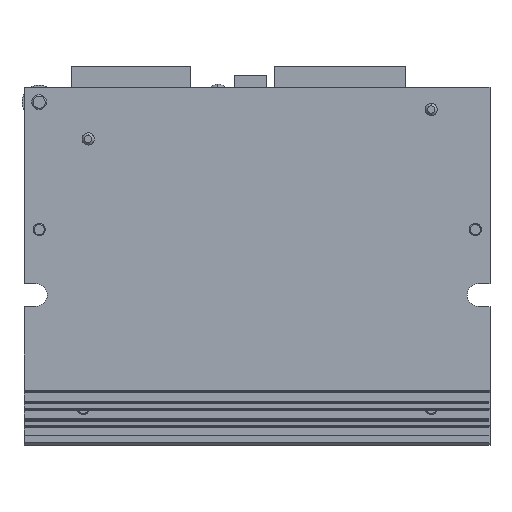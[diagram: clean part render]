
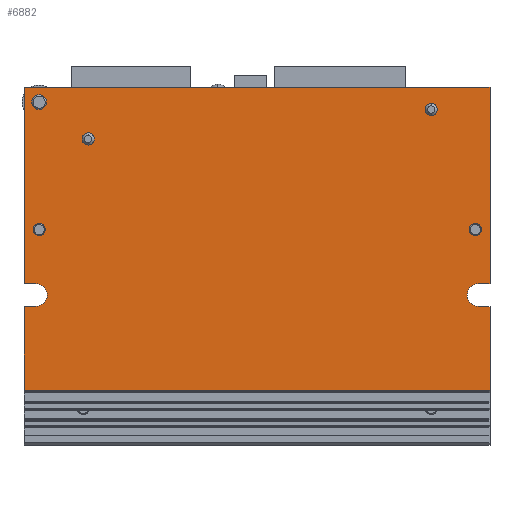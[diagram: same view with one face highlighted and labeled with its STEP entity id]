
A CAD part, front view. The second image highlights one B-rep face of the part: STEP entity #6882.
In plain terms, the highlighted planar face has unit normal (0, -1, 0).
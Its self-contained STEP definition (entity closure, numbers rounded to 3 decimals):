
#61=DIRECTION('',(0.,0.,-1.));
#62=VECTOR('',#61,17.101);
#63=CARTESIAN_POINT('',(0.,0.,-44.7));
#64=LINE('',#63,#62);
#1291=DIRECTION('',(0.,0.,-1.));
#1292=VECTOR('',#1291,40.);
#1293=CARTESIAN_POINT('',(0.,0.,0.));
#1294=LINE('',#1293,#1292);
#1467=DIRECTION('',(0.,0.,1.));
#1468=VECTOR('',#1467,40.);
#1469=CARTESIAN_POINT('',(95.,0.,-40.));
#1470=LINE('',#1469,#1468);
#2648=DIRECTION('',(0.,0.,1.));
#2649=VECTOR('',#2648,17.101);
#2650=CARTESIAN_POINT('',(95.,0.,-61.801));
#2651=LINE('',#2650,#2649);
#2841=CARTESIAN_POINT('',(83.,0.,-4.5));
#2842=DIRECTION('',(0.,-1.,0.));
#2843=DIRECTION('',(1.,0.,0.));
#2844=AXIS2_PLACEMENT_3D('',#2841,#2842,#2843);
#2849=CARTESIAN_POINT('',(83.,0.,-4.5));
#2850=DIRECTION('',(0.,-1.,0.));
#2851=DIRECTION('',(-1.,0.,0.));
#2852=AXIS2_PLACEMENT_3D('',#2849,#2850,#2851);
#2857=CARTESIAN_POINT('',(13.,0.,-10.5));
#2858=DIRECTION('',(0.,-1.,0.));
#2859=DIRECTION('',(1.,0.,0.));
#2860=AXIS2_PLACEMENT_3D('',#2857,#2858,#2859);
#2865=CARTESIAN_POINT('',(13.,0.,-10.5));
#2866=DIRECTION('',(0.,-1.,0.));
#2867=DIRECTION('',(-1.,0.,0.));
#2868=AXIS2_PLACEMENT_3D('',#2865,#2866,#2867);
#2873=CARTESIAN_POINT('',(3.,0.,-3.));
#2874=DIRECTION('',(0.,-1.,0.));
#2875=DIRECTION('',(1.,0.,0.));
#2876=AXIS2_PLACEMENT_3D('',#2873,#2874,#2875);
#2881=CARTESIAN_POINT('',(3.,0.,-3.));
#2882=DIRECTION('',(0.,-1.,0.));
#2883=DIRECTION('',(-1.,0.,0.));
#2884=AXIS2_PLACEMENT_3D('',#2881,#2882,#2883);
#2889=DIRECTION('',(1.,0.,0.));
#2890=VECTOR('',#2889,2.3);
#2891=CARTESIAN_POINT('',(0.,0.,-40.));
#2892=LINE('',#2891,#2890);
#2896=DIRECTION('',(-1.,0.,0.));
#2897=VECTOR('',#2896,95.);
#2898=CARTESIAN_POINT('',(95.,0.,0.));
#2899=LINE('',#2898,#2897);
#2903=DIRECTION('',(-1.,0.,0.));
#2904=VECTOR('',#2903,2.3);
#2905=CARTESIAN_POINT('',(95.,0.,-40.));
#2906=LINE('',#2905,#2904);
#2910=CARTESIAN_POINT('',(92.7,0.,-42.35));
#2911=DIRECTION('',(0.,1.,0.));
#2912=DIRECTION('',(0.,0.,-1.));
#2913=AXIS2_PLACEMENT_3D('',#2910,#2911,#2912);
#2918=DIRECTION('',(-1.,0.,0.));
#2919=VECTOR('',#2918,2.3);
#2920=CARTESIAN_POINT('',(95.,0.,-44.7));
#2921=LINE('',#2920,#2919);
#2925=DIRECTION('',(1.,0.,0.));
#2926=VECTOR('',#2925,95.);
#2927=CARTESIAN_POINT('',(0.,0.,-61.801));
#2928=LINE('',#2927,#2926);
#2932=DIRECTION('',(1.,0.,0.));
#2933=VECTOR('',#2932,2.3);
#2934=CARTESIAN_POINT('',(0.,0.,-44.7));
#2935=LINE('',#2934,#2933);
#2939=CARTESIAN_POINT('',(2.3,0.,-42.35));
#2940=DIRECTION('',(0.,1.,0.));
#2941=DIRECTION('',(0.,0.,1.));
#2942=AXIS2_PLACEMENT_3D('',#2939,#2940,#2941);
#2947=CARTESIAN_POINT('',(3.,0.,-29.));
#2948=DIRECTION('',(0.,1.,0.));
#2949=DIRECTION('',(1.,0.,0.));
#2950=AXIS2_PLACEMENT_3D('',#2947,#2948,#2949);
#2955=CARTESIAN_POINT('',(3.,0.,-29.));
#2956=DIRECTION('',(0.,1.,0.));
#2957=DIRECTION('',(-1.,0.,0.));
#2958=AXIS2_PLACEMENT_3D('',#2955,#2956,#2957);
#2963=CARTESIAN_POINT('',(92.,0.,-29.));
#2964=DIRECTION('',(0.,1.,0.));
#2965=DIRECTION('',(1.,0.,0.));
#2966=AXIS2_PLACEMENT_3D('',#2963,#2964,#2965);
#2971=CARTESIAN_POINT('',(92.,0.,-29.));
#2972=DIRECTION('',(0.,1.,0.));
#2973=DIRECTION('',(-1.,0.,0.));
#2974=AXIS2_PLACEMENT_3D('',#2971,#2972,#2973);
#5203=CARTESIAN_POINT('',(95.,0.,0.));
#5204=CARTESIAN_POINT('',(0.,0.,0.));
#5205=VERTEX_POINT('',#5203);
#5206=VERTEX_POINT('',#5204);
#5451=CARTESIAN_POINT('',(0.,0.,-61.801));
#5452=VERTEX_POINT('',#5451);
#5457=CARTESIAN_POINT('',(95.,0.,-61.801));
#5458=VERTEX_POINT('',#5457);
#5647=CARTESIAN_POINT('',(84.25,0.,-4.5));
#5648=CARTESIAN_POINT('',(81.75,0.,-4.5));
#5649=VERTEX_POINT('',#5647);
#5650=VERTEX_POINT('',#5648);
#5655=CARTESIAN_POINT('',(14.25,0.,-10.5));
#5656=CARTESIAN_POINT('',(11.75,0.,-10.5));
#5657=VERTEX_POINT('',#5655);
#5658=VERTEX_POINT('',#5656);
#5659=CARTESIAN_POINT('',(4.5,0.,-3.));
#5660=CARTESIAN_POINT('',(1.5,0.,-3.));
#5661=VERTEX_POINT('',#5659);
#5662=VERTEX_POINT('',#5660);
#5663=CARTESIAN_POINT('',(0.,0.,-40.));
#5665=VERTEX_POINT('',#5663);
#5667=CARTESIAN_POINT('',(0.,0.,-44.7));
#5669=VERTEX_POINT('',#5667);
#5671=CARTESIAN_POINT('',(95.,0.,-44.7));
#5673=VERTEX_POINT('',#5671);
#5675=CARTESIAN_POINT('',(95.,0.,-40.));
#5677=VERTEX_POINT('',#5675);
#5679=CARTESIAN_POINT('',(2.3,0.,-40.));
#5680=VERTEX_POINT('',#5679);
#5681=CARTESIAN_POINT('',(2.3,0.,-44.7));
#5682=VERTEX_POINT('',#5681);
#5683=CARTESIAN_POINT('',(92.7,0.,-44.7));
#5684=VERTEX_POINT('',#5683);
#5685=CARTESIAN_POINT('',(92.7,0.,-40.));
#5686=VERTEX_POINT('',#5685);
#5719=CARTESIAN_POINT('',(4.25,0.,-29.));
#5720=CARTESIAN_POINT('',(1.75,0.,-29.));
#5721=VERTEX_POINT('',#5719);
#5722=VERTEX_POINT('',#5720);
#5723=CARTESIAN_POINT('',(93.25,0.,-29.));
#5724=CARTESIAN_POINT('',(90.75,0.,-29.));
#5725=VERTEX_POINT('',#5723);
#5726=VERTEX_POINT('',#5724);
#6827=CARTESIAN_POINT('',(95.,0.,0.));
#6828=DIRECTION('',(0.,-1.,0.));
#6829=DIRECTION('',(0.,0.,-1.));
#6830=AXIS2_PLACEMENT_3D('',#6827,#6828,#6829);
#6831=PLANE('',#6830);
#6833=ORIENTED_EDGE('',*,*,#6832,.F.);
#6834=ORIENTED_EDGE('',*,*,#6178,.F.);
#6836=ORIENTED_EDGE('',*,*,#6835,.F.);
#6837=ORIENTED_EDGE('',*,*,#6346,.F.);
#6838=ORIENTED_EDGE('',*,*,#6741,.T.);
#6840=ORIENTED_EDGE('',*,*,#6839,.F.);
#6842=ORIENTED_EDGE('',*,*,#6841,.F.);
#6843=ORIENTED_EDGE('',*,*,#6700,.F.);
#6845=ORIENTED_EDGE('',*,*,#6844,.F.);
#6846=ORIENTED_EDGE('',*,*,#5798,.F.);
#6848=ORIENTED_EDGE('',*,*,#6847,.T.);
#6850=ORIENTED_EDGE('',*,*,#6849,.F.);
#6851=EDGE_LOOP('',(#6833,#6834,#6836,#6837,#6838,#6840,#6842,#6843,#6845,#6846,
#6848,#6850));
#6852=FACE_OUTER_BOUND('',#6851,.F.);
#6854=ORIENTED_EDGE('',*,*,#6853,.T.);
#6856=ORIENTED_EDGE('',*,*,#6855,.T.);
#6857=EDGE_LOOP('',(#6854,#6856));
#6858=FACE_BOUND('',#6857,.F.);
#6860=ORIENTED_EDGE('',*,*,#6859,.T.);
#6862=ORIENTED_EDGE('',*,*,#6861,.T.);
#6863=EDGE_LOOP('',(#6860,#6862));
#6864=FACE_BOUND('',#6863,.F.);
#6865=ORIENTED_EDGE('',*,*,#6817,.T.);
#6867=ORIENTED_EDGE('',*,*,#6866,.T.);
#6868=EDGE_LOOP('',(#6865,#6867));
#6869=FACE_BOUND('',#6868,.F.);
#6871=ORIENTED_EDGE('',*,*,#6870,.F.);
#6873=ORIENTED_EDGE('',*,*,#6872,.F.);
#6874=EDGE_LOOP('',(#6871,#6873));
#6875=FACE_BOUND('',#6874,.F.);
#6877=ORIENTED_EDGE('',*,*,#6876,.F.);
#6879=ORIENTED_EDGE('',*,*,#6878,.F.);
#6880=EDGE_LOOP('',(#6877,#6879));
#6881=FACE_BOUND('',#6880,.F.);
#2845=CIRCLE('',#2844,1.25);
#2853=CIRCLE('',#2852,1.25);
#2861=CIRCLE('',#2860,1.25);
#2869=CIRCLE('',#2868,1.25);
#2877=CIRCLE('',#2876,1.5);
#2885=CIRCLE('',#2884,1.5);
#2914=CIRCLE('',#2913,2.35);
#2943=CIRCLE('',#2942,2.35);
#2951=CIRCLE('',#2950,1.25);
#2959=CIRCLE('',#2958,1.25);
#2967=CIRCLE('',#2966,1.25);
#2975=CIRCLE('',#2974,1.25);
#5798=EDGE_CURVE('',#5669,#5452,#64,.T.);
#6178=EDGE_CURVE('',#5206,#5665,#1294,.T.);
#6346=EDGE_CURVE('',#5677,#5205,#1470,.T.);
#6700=EDGE_CURVE('',#5458,#5673,#2651,.T.);
#6741=EDGE_CURVE('',#5677,#5686,#2906,.T.);
#6817=EDGE_CURVE('',#5649,#5650,#2845,.T.);
#6832=EDGE_CURVE('',#5665,#5680,#2892,.T.);
#6835=EDGE_CURVE('',#5205,#5206,#2899,.T.);
#6839=EDGE_CURVE('',#5684,#5686,#2914,.T.);
#6841=EDGE_CURVE('',#5673,#5684,#2921,.T.);
#6844=EDGE_CURVE('',#5452,#5458,#2928,.T.);
#6847=EDGE_CURVE('',#5669,#5682,#2935,.T.);
#6849=EDGE_CURVE('',#5680,#5682,#2943,.T.);
#6853=EDGE_CURVE('',#5657,#5658,#2861,.T.);
#6855=EDGE_CURVE('',#5658,#5657,#2869,.T.);
#6859=EDGE_CURVE('',#5661,#5662,#2877,.T.);
#6861=EDGE_CURVE('',#5662,#5661,#2885,.T.);
#6866=EDGE_CURVE('',#5650,#5649,#2853,.T.);
#6870=EDGE_CURVE('',#5721,#5722,#2951,.T.);
#6872=EDGE_CURVE('',#5722,#5721,#2959,.T.);
#6876=EDGE_CURVE('',#5725,#5726,#2967,.T.);
#6878=EDGE_CURVE('',#5726,#5725,#2975,.T.);
#6882=ADVANCED_FACE('',(#6852,#6858,#6864,#6869,#6875,#6881),#6831,.T.);
